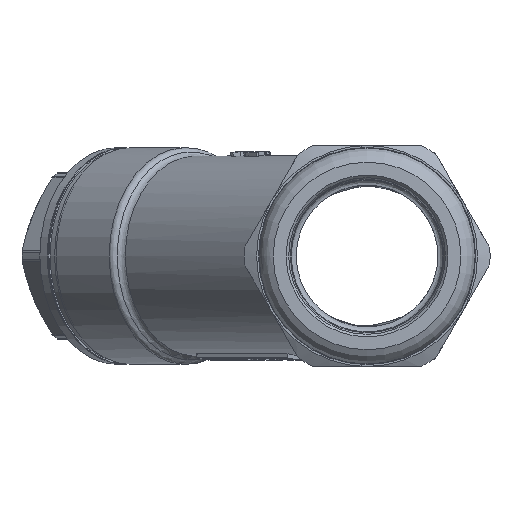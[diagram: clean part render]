
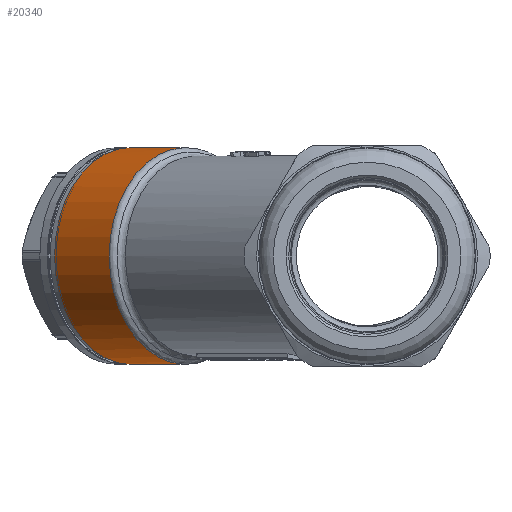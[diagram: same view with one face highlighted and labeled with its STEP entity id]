
A CAD part, left-side view. The second image highlights one B-rep face of the part: STEP entity #20340.
In plain terms, the highlighted cylindrical face has radius 13 mm (diameter 26 mm), a full revolution.
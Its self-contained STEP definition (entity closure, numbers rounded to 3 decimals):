
#14714=CARTESIAN_POINT('',(22.658,15.382,1.412));
#14715=VERTEX_POINT('',#14714);
#14724=CARTESIAN_POINT('',(22.935,15.582,0.765));
#14725=VERTEX_POINT('',#14724);
#14733=CARTESIAN_POINT('',(22.658,15.382,1.412));
#14734=CARTESIAN_POINT('',(22.71,15.423,1.344));
#14735=CARTESIAN_POINT('',(22.754,15.458,1.274));
#14736=CARTESIAN_POINT('',(22.792,15.486,1.202));
#14737=CARTESIAN_POINT('',(22.83,15.514,1.13));
#14738=CARTESIAN_POINT('',(22.861,15.537,1.056));
#14739=CARTESIAN_POINT('',(22.885,15.553,0.983));
#14740=CARTESIAN_POINT('',(22.909,15.569,0.91));
#14741=CARTESIAN_POINT('',(22.925,15.578,0.837));
#14742=CARTESIAN_POINT('',(22.935,15.582,0.765));
#14743=B_SPLINE_CURVE_WITH_KNOTS('',3,(#14733,#14734,#14735,#14736,#14737,#14738,#14739,#14740,#14741,#14742),.UNSPECIFIED.,.F.,.U.,(4,3,3,4),(0.0,0.333,0.667,1.0),.UNSPECIFIED.);
#14744=EDGE_CURVE('',#14715,#14725,#14743,.T.);
#14797=CARTESIAN_POINT('',(19.24,13.238,4.946));
#14798=VERTEX_POINT('',#14797);
#14799=CARTESIAN_POINT('',(19.24,13.238,4.946));
#14800=CARTESIAN_POINT('',(19.716,13.482,4.548));
#14801=CARTESIAN_POINT('',(20.158,13.725,4.149));
#14802=CARTESIAN_POINT('',(20.568,13.966,3.753));
#14803=CARTESIAN_POINT('',(20.978,14.207,3.356));
#14804=CARTESIAN_POINT('',(21.355,14.445,2.963));
#14805=CARTESIAN_POINT('',(21.703,14.681,2.572));
#14806=CARTESIAN_POINT('',(22.051,14.918,2.182));
#14807=CARTESIAN_POINT('',(22.369,15.152,1.794));
#14808=CARTESIAN_POINT('',(22.658,15.382,1.412));
#14809=B_SPLINE_CURVE_WITH_KNOTS('',3,(#14799,#14800,#14801,#14802,#14803,#14804,#14805,#14806,#14807,#14808),.UNSPECIFIED.,.F.,.U.,(4,3,3,4),(0.0,0.333,0.667,1.0),.UNSPECIFIED.);
#14810=EDGE_CURVE('',#14798,#14715,#14809,.T.);
#18905=CARTESIAN_POINT('',(19.24,13.238,-4.946));
#18906=VERTEX_POINT('',#18905);
#18924=CARTESIAN_POINT('',(10.739,21.739,0.0));
#18925=DIRECTION('',(0.707,0.707,0.0));
#18926=DIRECTION('',(-0.707,0.707,0.0));
#18927=AXIS2_PLACEMENT_3D('',#18924,#18925,#18926);
#18928=CIRCLE('',#18927,13.);
#18929=EDGE_CURVE('',#18906,#14798,#18928,.T.);
#19045=CARTESIAN_POINT('',(22.658,15.382,-1.412));
#19046=VERTEX_POINT('',#19045);
#19047=CARTESIAN_POINT('',(22.658,15.382,-1.412));
#19048=CARTESIAN_POINT('',(22.369,15.152,-1.794));
#19049=CARTESIAN_POINT('',(22.05,14.918,-2.182));
#19050=CARTESIAN_POINT('',(21.703,14.681,-2.572));
#19051=CARTESIAN_POINT('',(21.355,14.445,-2.963));
#19052=CARTESIAN_POINT('',(20.978,14.206,-3.357));
#19053=CARTESIAN_POINT('',(20.568,13.966,-3.753));
#19054=CARTESIAN_POINT('',(20.158,13.725,-4.149));
#19055=CARTESIAN_POINT('',(19.716,13.482,-4.548));
#19056=CARTESIAN_POINT('',(19.24,13.238,-4.946));
#19057=B_SPLINE_CURVE_WITH_KNOTS('',3,(#19047,#19048,#19049,#19050,#19051,#19052,#19053,#19054,#19055,#19056),.UNSPECIFIED.,.F.,.U.,(4,3,3,4),(0.0,0.333,0.667,1.0),.UNSPECIFIED.);
#19058=EDGE_CURVE('',#19046,#18906,#19057,.T.);
#19119=CARTESIAN_POINT('',(22.935,15.582,-0.765));
#19120=VERTEX_POINT('',#19119);
#19128=CARTESIAN_POINT('',(22.988,15.604,0.));
#19129=VERTEX_POINT('',#19128);
#19130=CARTESIAN_POINT('',(22.988,15.604,0.));
#19131=CARTESIAN_POINT('',(22.988,15.604,-0.085));
#19132=CARTESIAN_POINT('',(22.986,15.603,-0.171));
#19133=CARTESIAN_POINT('',(22.982,15.601,-0.256));
#19134=CARTESIAN_POINT('',(22.978,15.6,-0.341));
#19135=CARTESIAN_POINT('',(22.972,15.597,-0.426));
#19136=CARTESIAN_POINT('',(22.965,15.594,-0.511));
#19137=CARTESIAN_POINT('',(22.957,15.591,-0.596));
#19138=CARTESIAN_POINT('',(22.947,15.587,-0.681));
#19139=CARTESIAN_POINT('',(22.935,15.582,-0.765));
#19140=B_SPLINE_CURVE_WITH_KNOTS('',3,(#19130,#19131,#19132,#19133,#19134,#19135,#19136,#19137,#19138,#19139),.UNSPECIFIED.,.F.,.U.,(4,3,3,4),(0.0,0.333,0.667,1.0),.UNSPECIFIED.);
#19141=EDGE_CURVE('',#19129,#19120,#19140,.T.);
#19203=CARTESIAN_POINT('',(22.935,15.582,-0.765));
#19204=CARTESIAN_POINT('',(22.925,15.578,-0.837));
#19205=CARTESIAN_POINT('',(22.909,15.569,-0.91));
#19206=CARTESIAN_POINT('',(22.885,15.553,-0.983));
#19207=CARTESIAN_POINT('',(22.861,15.537,-1.056));
#19208=CARTESIAN_POINT('',(22.83,15.514,-1.13));
#19209=CARTESIAN_POINT('',(22.792,15.486,-1.202));
#19210=CARTESIAN_POINT('',(22.754,15.458,-1.274));
#19211=CARTESIAN_POINT('',(22.71,15.423,-1.344));
#19212=CARTESIAN_POINT('',(22.658,15.382,-1.412));
#19213=B_SPLINE_CURVE_WITH_KNOTS('',3,(#19203,#19204,#19205,#19206,#19207,#19208,#19209,#19210,#19211,#19212),.UNSPECIFIED.,.F.,.U.,(4,3,3,4),(0.0,0.333,0.667,1.0),.UNSPECIFIED.);
#19214=EDGE_CURVE('',#19120,#19046,#19213,.T.);
#20301=CARTESIAN_POINT('',(22.935,15.582,0.765));
#20302=CARTESIAN_POINT('',(22.953,15.589,0.636));
#20303=CARTESIAN_POINT('',(22.966,15.595,0.507));
#20304=CARTESIAN_POINT('',(22.975,15.598,0.379));
#20305=CARTESIAN_POINT('',(22.984,15.602,0.252));
#20306=CARTESIAN_POINT('',(22.988,15.604,0.125));
#20307=CARTESIAN_POINT('',(22.988,15.604,0.));
#20308=B_SPLINE_CURVE_WITH_KNOTS('',3,(#20301,#20302,#20303,#20304,#20305,#20306,#20307),.UNSPECIFIED.,.F.,.U.,(4,3,4),(0.0,0.5,1.0),.UNSPECIFIED.);
#20309=EDGE_CURVE('',#14725,#19129,#20308,.T.);
#20315=CARTESIAN_POINT('',(18.0,29.,0.0));
#20316=DIRECTION('',(0.707,0.707,0.0));
#20317=DIRECTION('',(0.707,-0.707,0.0));
#20318=AXIS2_PLACEMENT_3D('',#20315,#20316,#20317);
#20319=CYLINDRICAL_SURFACE('',#20318,13.);
#20320=CARTESIAN_POINT('',(8.101,37.485,0.0));
#20321=VERTEX_POINT('',#20320);
#20322=CARTESIAN_POINT('',(17.293,28.293,0.0));
#20323=DIRECTION('',(0.707,0.707,0.0));
#20324=DIRECTION('',(0.707,-0.707,0.0));
#20325=AXIS2_PLACEMENT_3D('',#20322,#20323,#20324);
#20326=CIRCLE('',#20325,13.);
#20327=EDGE_CURVE('',#20321,#20321,#20326,.T.);
#20328=ORIENTED_EDGE('',*,*,#20327,.F.);
#20329=EDGE_LOOP('',(#20328));
#20330=FACE_OUTER_BOUND('',#20329,.T.);
#20331=ORIENTED_EDGE('',*,*,#18929,.T.);
#20332=ORIENTED_EDGE('',*,*,#14810,.T.);
#20333=ORIENTED_EDGE('',*,*,#14744,.T.);
#20334=ORIENTED_EDGE('',*,*,#20309,.T.);
#20335=ORIENTED_EDGE('',*,*,#19141,.T.);
#20336=ORIENTED_EDGE('',*,*,#19214,.T.);
#20337=ORIENTED_EDGE('',*,*,#19058,.T.);
#20338=EDGE_LOOP('',(#20331,#20332,#20333,#20334,#20335,#20336,#20337));
#20339=FACE_BOUND('',#20338,.T.);
#20340=ADVANCED_FACE('',(#20330,#20339),#20319,.T.);
